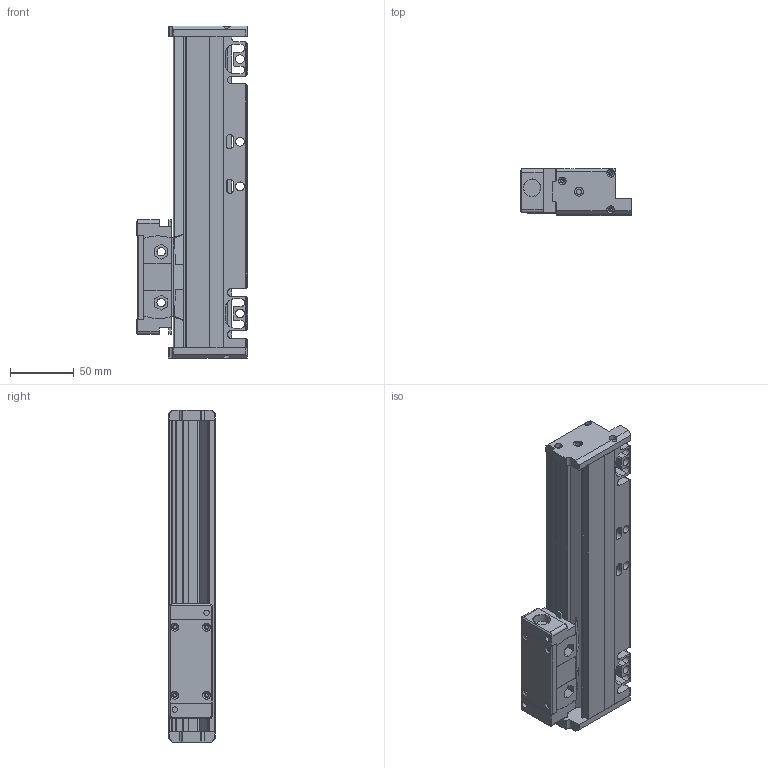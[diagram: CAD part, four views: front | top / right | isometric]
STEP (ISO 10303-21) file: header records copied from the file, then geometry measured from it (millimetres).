
FILE_DESCRIPTION(/* description */ (''),/* implementation_level */ '2;1');
FILE_NAME(/* name */ 'JC21A-140-1.stp',/* time_stamp */ '2023-12-21T16:32:22+08:00',/* author */ (''),/* organization */ (''),/* preprocessor_version */ 'ST-DEVELOPER v14',/* originating_system */ 'SIEMENS PLM Software NX 8.0',/* authorisation */ '');
FILE_SCHEMA (('CONFIG_CONTROL_DESIGN'));
Length unit declared in the file: millimetre
Products named in the file (1): JC21A-140-1
Bounding box: 87.5 x 37 x 261 mm (x, y, z)
Volume: 478919.9 mm3; surface area: 96654.3 mm2
Topology: 4 solids, 6 shells, 431 faces, 1192 edges, 783 vertices
Faces by surface type: plane 264, cylinder 135, cone 22, bspline 8, extrusion 2
Full cylindrical faces by diameter (mm): 2.5 x12, 3.3 x6, 3.7 x4, 4.2 x4, 5 x2, 6 x6, 6.6 x2, 6.8 x4, 7 x2, 13.2 x2
Entity records: 13767 total; most frequent: CARTESIAN_POINT 2795, ORIENTED_EDGE 2220, DIRECTION 2214, EDGE_CURVE 1110, VECTOR 768, VERTEX_POINT 767, LINE 766, AXIS2_PLACEMENT_3D 723
